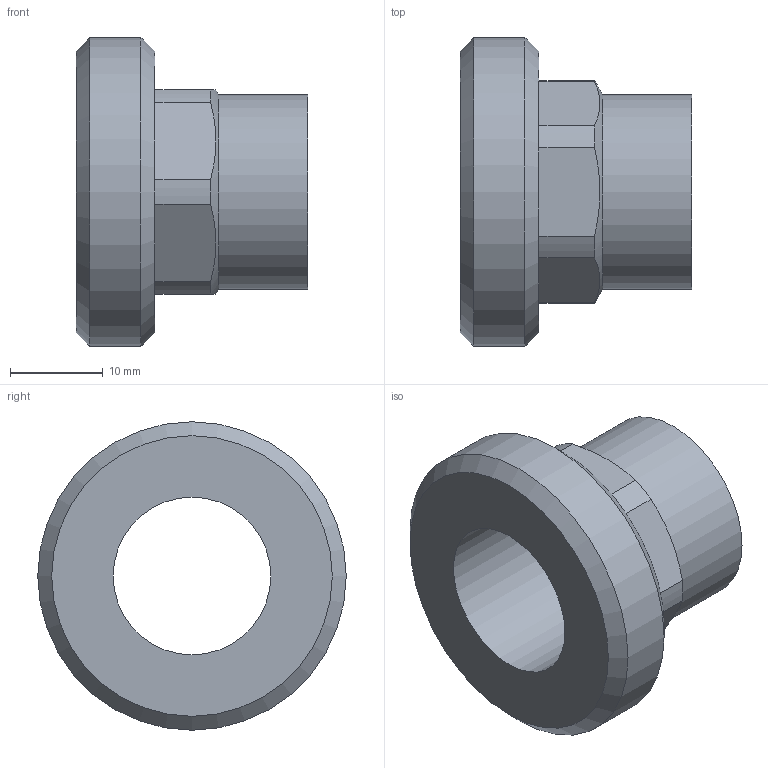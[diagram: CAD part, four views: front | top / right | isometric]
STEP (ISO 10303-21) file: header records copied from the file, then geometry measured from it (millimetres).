
FILE_DESCRIPTION((''),'2;1');
FILE_NAME('\\Lg50001\Groups\SANHA Legnica\Engineering\Public\RYSUNKI\SANHA POLSKA\4370\STEP\14370_18-1(1).stp','2009-11-06T08:56:21',('pajchrowski'),(''),'Autodesk Inventor 2009','Autodesk Inventor 2009','');
FILE_SCHEMA(('AUTOMOTIVE_DESIGN { 1 0 10303 214 1 1 1 1 }'));
Length unit declared in the file: millimetre
Products named in the file (1): 14370g-34_1(1)
Bounding box: 25 x 33.25 x 33.25 mm (x, y, z)
Volume: 7275.3 mm3; surface area: 4467.4 mm2
Topology: 1 solids, 1 shells, 23 faces, 54 edges, 35 vertices
Faces by surface type: cylinder 10, plane 10, cone 3
Full cylindrical faces by diameter (mm): 17 x1, 18 x1, 21 x1, 33.249 x1
Entity records: 646 total; most frequent: CARTESIAN_POINT 116, DIRECTION 110, ORIENTED_EDGE 92, AXIS2_PLACEMENT_3D 46, EDGE_CURVE 46, VERTEX_POINT 34, EDGE_LOOP 34, FACE_OUTER_BOUND 23
